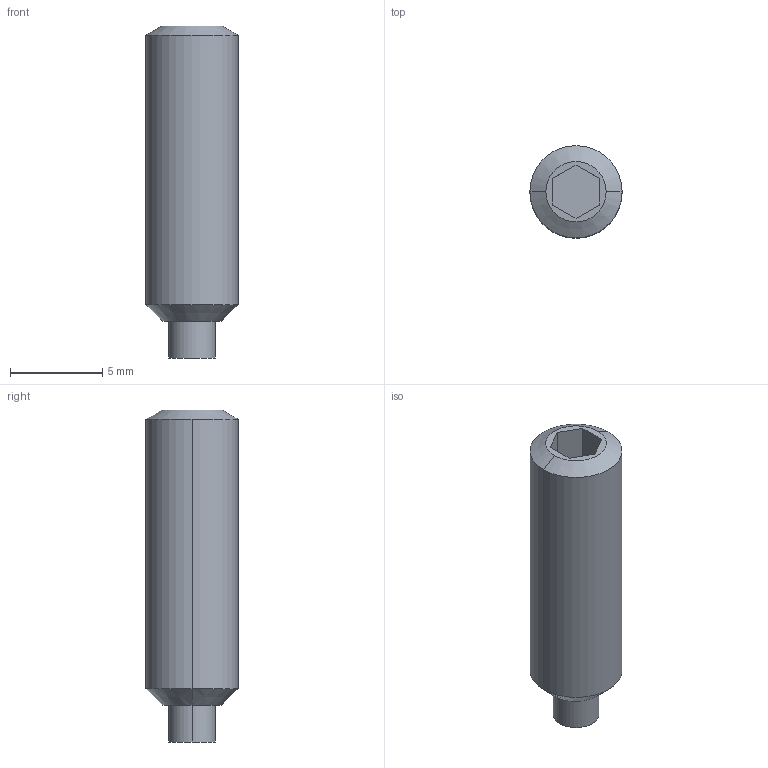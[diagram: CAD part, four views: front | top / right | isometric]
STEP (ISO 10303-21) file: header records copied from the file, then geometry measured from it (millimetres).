
FILE_DESCRIPTION (( 'STEP AP203' ), '1' );
FILE_NAME ('usc5x16.STEP', '2021-10-26T06:35:46', ( '' ), ( '' ), 'SwSTEP 2.0', 'SolidWorks 2020', '' );
FILE_SCHEMA (( 'CONFIG_CONTROL_DESIGN' ));
Length unit declared in the file: millimetre
Products named in the file (1): usc5x16
Bounding box: 5 x 5 x 18 mm (x, y, z)
Volume: 301.8 mm3; surface area: 312.5 mm2
Topology: 1 solids, 1 shells, 18 faces, 38 edges, 24 vertices
Faces by surface type: plane 10, cone 4, cylinder 4
Entity records: 559 total; most frequent: DIRECTION 88, CARTESIAN_POINT 81, ORIENTED_EDGE 76, EDGE_CURVE 38, AXIS2_PLACEMENT_3D 31, LINE 26, VECTOR 26, VERTEX_POINT 24
